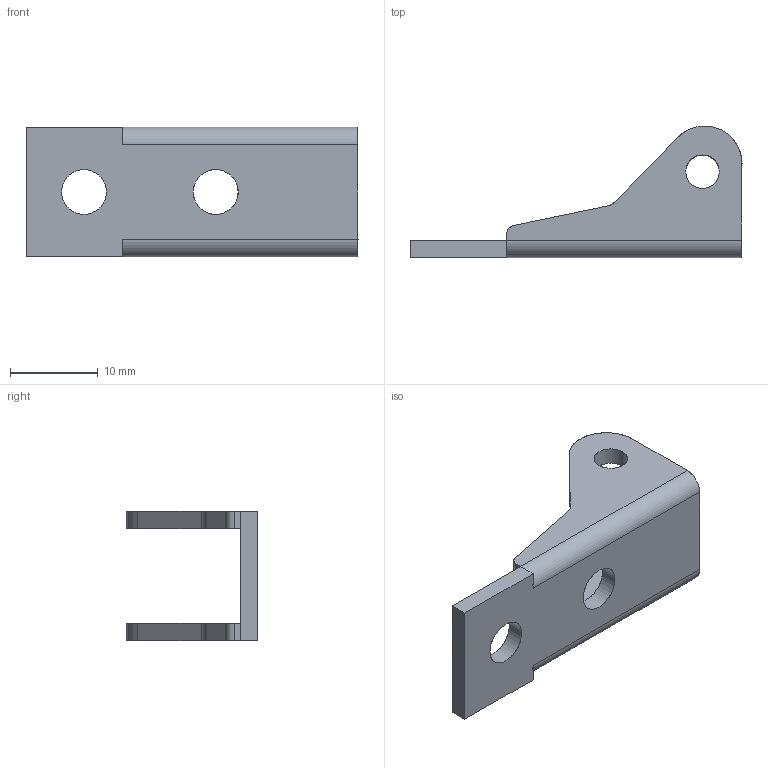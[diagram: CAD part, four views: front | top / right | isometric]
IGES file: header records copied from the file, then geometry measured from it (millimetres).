
Start section: SolidWorks IGES FILE using analytic representation for surfaces
Global section: file name: C:\Documents and Settings\lecoutey\Bureau\GO 543\537.020.00.IGS; native system: SolidWorks 2004 by SolidWorks Corporation; preprocessor: Version 5.3; author: lecoutey; date: 050329.120529; units: millimetre
Bounding box: 37.8 x 15 x 14.8 mm (x, y, z)
Surface area: 2072.1 mm2 (no closed solid volume)
Topology: 0 solids, 0 shells, 36 faces, 540 edges, 540 vertices
Faces by surface type: bspline 20, revolution 16
